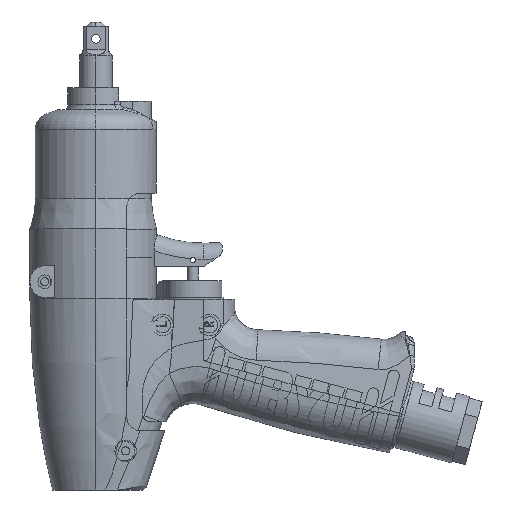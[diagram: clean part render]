
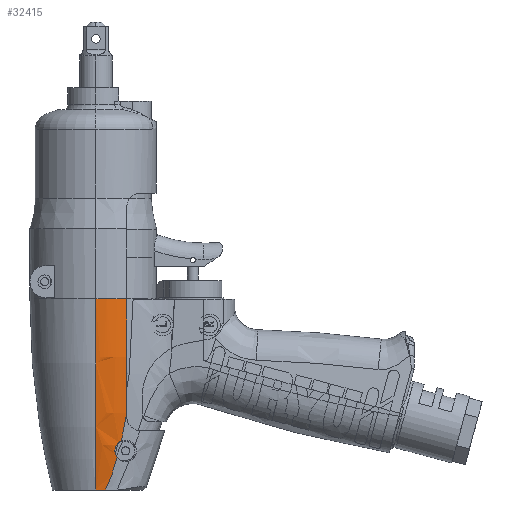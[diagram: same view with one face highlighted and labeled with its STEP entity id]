
A CAD part, left-side view. The second image highlights one B-rep face of the part: STEP entity #32415.
In plain terms, the highlighted toroidal (fillet/blend) face has major radius 277.5 mm and minor radius 302 mm.
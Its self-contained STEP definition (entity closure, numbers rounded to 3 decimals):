
#77 = CARTESIAN_POINT ( 'NONE',  ( -18.091, -7.571, -150.816 ) ) ;
#463 = CARTESIAN_POINT ( 'NONE',  ( -15.701, -3.588, -167.4 ) ) ;
#3963 = CARTESIAN_POINT ( 'NONE',  ( -19.959, -11.5, -126.457 ) ) ;
#4495 = CARTESIAN_POINT ( 'NONE',  ( -17.589, -7.171, -154.097 ) ) ;
#4704 = CARTESIAN_POINT ( 'NONE',  ( -18.006, -8.05, -150.194 ) ) ;
#5101 = CARTESIAN_POINT ( 'NONE',  ( -15.701, -3.588, -167.4 ) ) ;
#5260 = VERTEX_POINT ( 'NONE', #5555 ) ;
#5353 = CIRCLE ( 'NONE', #10785, 302. ) ;
#5555 = CARTESIAN_POINT ( 'NONE',  ( -18.235, -11.5, -138.742 ) ) ;
#6105 = DIRECTION ( 'NONE',  ( 0., 0., 1. ) ) ;
#6801 = B_SPLINE_CURVE_WITH_KNOTS ( 'NONE', 3,
 ( #5101, #32725, #9761, #41983, #14372, #46589, #18978, #51227 ),
 .UNSPECIFIED., .F., .F.,
 ( 4, 2, 2, 4 ),
 ( 0., 0.003, 0.006, 0.013 ),
 .UNSPECIFIED. ) ;
#8621 = CARTESIAN_POINT ( 'NONE',  ( -20.509, -11.5, -121.155 ) ) ;
#9162 = CARTESIAN_POINT ( 'NONE',  ( -17.761, -7.044, -153.511 ) ) ;
#9227 = ORIENTED_EDGE ( 'NONE', *, *, #10005, .T. ) ;
#9366 = CARTESIAN_POINT ( 'NONE',  ( -17.918, -8.382, -149.872 ) ) ;
#9519 = DIRECTION ( 'NONE',  ( 0., 0., 1. ) ) ;
#9761 = CARTESIAN_POINT ( 'NONE',  ( -15.944, -4.503, -165.477 ) ) ;
#9798 = CIRCLE ( 'NONE', #26533, 16.106 ) ;
#10005 = EDGE_CURVE ( 'NONE', #16245, #38086, #6801, .T. ) ;
#10785 = AXIS2_PLACEMENT_3D ( 'NONE', #50714, #23957, #56214 ) ;
#11390 = VERTEX_POINT ( 'NONE', #55395 ) ;
#13244 = CARTESIAN_POINT ( 'NONE',  ( -21.372, -11.5, -110.512 ) ) ;
#13779 = CARTESIAN_POINT ( 'NONE',  ( -17.873, -7., -153.052 ) ) ;
#13983 = CARTESIAN_POINT ( 'NONE',  ( -17.757, -8.869, -149.501 ) ) ;
#14372 = CARTESIAN_POINT ( 'NONE',  ( -16.293, -5.656, -162.503 ) ) ;
#14666 = ORIENTED_EDGE ( 'NONE', *, *, #36241, .F. ) ;
#16245 = VERTEX_POINT ( 'NONE', #463 ) ;
#17163 = EDGE_CURVE ( 'NONE', #11390, #16245, #9798, .T. ) ;
#17624 = CARTESIAN_POINT ( 'NONE',  ( -18.235, -11.5, -138.742 ) ) ;
#17839 = CARTESIAN_POINT ( 'NONE',  ( -21.633, -11.5, -96.399 ) ) ;
#18165 = CARTESIAN_POINT ( 'NONE',  ( -17.146, -7.683, -155.154 ) ) ;
#18373 = CARTESIAN_POINT ( 'NONE',  ( -18.015, -7.035, -152.284 ) ) ;
#18403 = VERTEX_POINT ( 'NONE', #57211 ) ;
#18585 = CARTESIAN_POINT ( 'NONE',  ( -17.536, -9.395, -149.236 ) ) ;
#18978 = CARTESIAN_POINT ( 'NONE',  ( -16.828, -7.296, -157.434 ) ) ;
#20322 = CARTESIAN_POINT ( 'NONE',  ( -18.036, -10.889, -142.259 ) ) ;
#20816 = EDGE_CURVE ( 'NONE', #5260, #36076, #49969, .T. ) ;
#21111 = AXIS2_PLACEMENT_3D ( 'NONE', #56845, #9519, #29228 ) ;
#21130 = CARTESIAN_POINT ( 'NONE',  ( -21.633, -11.5, -96.399 ) ) ;
#21472 = DIRECTION ( 'NONE',  ( 0., 0., 1. ) ) ;
#23050 = CARTESIAN_POINT ( 'NONE',  ( -18.076, -7.19, -151.673 ) ) ;
#23070 = CARTESIAN_POINT ( 'NONE',  ( -17.805, -10.194, -145.759 ) ) ;
#23957 = DIRECTION ( 'NONE',  ( 0., 1., 0. ) ) ;
#24859 = EDGE_LOOP ( 'NONE', ( #14666, #51225, #9227, #49880, #58923, #42218, #36313 ) ) ;
#25011 = EDGE_CURVE ( 'NONE', #38086, #47285, #51415, .T. ) ;
#25148 = AXIS2_PLACEMENT_3D ( 'NONE', #33730, #6105, #38341 ) ;
#26528 = TOROIDAL_SURFACE ( 'NONE', #21111, -277.5, 302. ) ;
#26533 = AXIS2_PLACEMENT_3D ( 'NONE', #49060, #21472, #53707 ) ;
#27689 = CARTESIAN_POINT ( 'NONE',  ( -18.095, -7.36, -151.235 ) ) ;
#27708 = CARTESIAN_POINT ( 'NONE',  ( -17.536, -9.395, -149.236 ) ) ;
#27987 = FACE_OUTER_BOUND ( 'NONE', #24859, .T. ) ;
#29228 = DIRECTION ( 'NONE',  ( 1., 0., 0. ) ) ;
#30098 = EDGE_CURVE ( 'NONE', #47285, #5260, #38780, .T. ) ;
#31570 = CARTESIAN_POINT ( 'NONE',  ( -19.317, -11.5, -131.741 ) ) ;
#32117 = CARTESIAN_POINT ( 'NONE',  ( -17.49, -7.271, -154.377 ) ) ;
#32325 = CARTESIAN_POINT ( 'NONE',  ( -18.069, -7.749, -150.549 ) ) ;
#32415 = ADVANCED_FACE ( 'NONE', ( #27987 ), #26528, .T. ) ;
#32725 = CARTESIAN_POINT ( 'NONE',  ( -15.824, -4.078, -166.451 ) ) ;
#33730 = CARTESIAN_POINT ( 'NONE',  ( 0., 0., -96.399 ) ) ;
#36076 = VERTEX_POINT ( 'NONE', #21130 ) ;
#36188 = CARTESIAN_POINT ( 'NONE',  ( -20.155, -11.5, -124.692 ) ) ;
#36241 = EDGE_CURVE ( 'NONE', #11390, #18403, #5353, .T. ) ;
#36313 = ORIENTED_EDGE ( 'NONE', *, *, #58024, .F. ) ;
#36735 = CARTESIAN_POINT ( 'NONE',  ( -17.72, -7.07, -153.659 ) ) ;
#36932 = CARTESIAN_POINT ( 'NONE',  ( -17.98, -8.157, -150.082 ) ) ;
#38086 = VERTEX_POINT ( 'NONE', #54794 ) ;
#38341 = DIRECTION ( 'NONE',  ( -1., 0., 0. ) ) ;
#38780 = B_SPLINE_CURVE_WITH_KNOTS ( 'NONE', 3,
 ( #27708, #23070, #20322, #52569 ),
 .UNSPECIFIED., .F., .F.,
 ( 4, 4 ),
 ( 0.019, 0.03 ),
 .UNSPECIFIED. ) ;
#40859 = CARTESIAN_POINT ( 'NONE',  ( -20.668, -11.5, -119.381 ) ) ;
#41390 = CARTESIAN_POINT ( 'NONE',  ( -17.838, -7.009, -153.207 ) ) ;
#41597 = CARTESIAN_POINT ( 'NONE',  ( -17.881, -8.502, -149.772 ) ) ;
#41748 = CARTESIAN_POINT ( 'NONE',  ( -17.536, -9.395, -149.236 ) ) ;
#41983 = CARTESIAN_POINT ( 'NONE',  ( -16.179, -5.293, -163.503 ) ) ;
#42218 = ORIENTED_EDGE ( 'NONE', *, *, #20816, .T. ) ;
#45456 = CARTESIAN_POINT ( 'NONE',  ( -21.641, -11.5, -103.443 ) ) ;
#45989 = CARTESIAN_POINT ( 'NONE',  ( -17.967, -7., -152.59 ) ) ;
#46186 = CARTESIAN_POINT ( 'NONE',  ( -17.656, -9.127, -149.353 ) ) ;
#46589 = CARTESIAN_POINT ( 'NONE',  ( -16.623, -6.687, -159.479 ) ) ;
#47285 = VERTEX_POINT ( 'NONE', #41748 ) ;
#49060 = CARTESIAN_POINT ( 'NONE',  ( 0., 0., -167.4 ) ) ;
#49880 = ORIENTED_EDGE ( 'NONE', *, *, #25011, .T. ) ;
#49969 = B_SPLINE_CURVE_WITH_KNOTS ( 'NONE', 3,
 ( #17624, #54531, #31570, #3963, #36188, #8621, #40859, #13244, #45456, #17839 ),
 .UNSPECIFIED., .F., .F.,
 ( 4, 2, 2, 2, 4 ),
 ( 0.051, 0.062, 0.067, 0.073, 0.094 ),
 .UNSPECIFIED. ) ;
#50616 = CARTESIAN_POINT ( 'NONE',  ( -18.064, -7.144, -151.825 ) ) ;
#50714 = CARTESIAN_POINT ( 'NONE',  ( 277.5, 0., -96.693 ) ) ;
#51225 = ORIENTED_EDGE ( 'NONE', *, *, #17163, .T. ) ;
#51227 = CARTESIAN_POINT ( 'NONE',  ( -17.017, -7.858, -155.376 ) ) ;
#51415 = B_SPLINE_CURVE_WITH_KNOTS ( 'NONE', 3,
 ( #54853, #18165, #59777, #32117, #4495, #36735, #9162, #41390, #13779, #45989, #18373, #50616, #23050, #55268, #27689, #77, #32325, #4704, #36932, #9366, #41597, #13983, #46186, #18585 ),
 .UNSPECIFIED., .F., .F.,
 ( 4, 2, 2, 2, 2, 2, 2, 2, 2, 2, 2, 4 ),
 ( 0.005, 0.006, 0.007, 0.007, 0.008, 0.009, 0.009, 0.01, 0.01, 0.011, 0.011, 0.012 ),
 .UNSPECIFIED. ) ;
#52569 = CARTESIAN_POINT ( 'NONE',  ( -18.235, -11.5, -138.742 ) ) ;
#53707 = DIRECTION ( 'NONE',  ( 1., 0., 0. ) ) ;
#54531 = CARTESIAN_POINT ( 'NONE',  ( -18.816, -11.5, -135.249 ) ) ;
#54794 = CARTESIAN_POINT ( 'NONE',  ( -17.017, -7.858, -155.376 ) ) ;
#54853 = CARTESIAN_POINT ( 'NONE',  ( -17.017, -7.858, -155.376 ) ) ;
#55268 = CARTESIAN_POINT ( 'NONE',  ( -18.091, -7.297, -151.379 ) ) ;
#55395 = CARTESIAN_POINT ( 'NONE',  ( -16.106, 0., -167.4 ) ) ;
#55711 = CIRCLE ( 'NONE', #25148, 24.5 ) ;
#56214 = DIRECTION ( 'NONE',  ( -1., 0., 0. ) ) ;
#56845 = CARTESIAN_POINT ( 'NONE',  ( 0., 0., -96.693 ) ) ;
#57211 = CARTESIAN_POINT ( 'NONE',  ( -24.5, 0., -96.399 ) ) ;
#58024 = EDGE_CURVE ( 'NONE', #18403, #36076, #55711, .T. ) ;
#58923 = ORIENTED_EDGE ( 'NONE', *, *, #30098, .T. ) ;
#59777 = CARTESIAN_POINT ( 'NONE',  ( -17.266, -7.529, -154.91 ) ) ;
